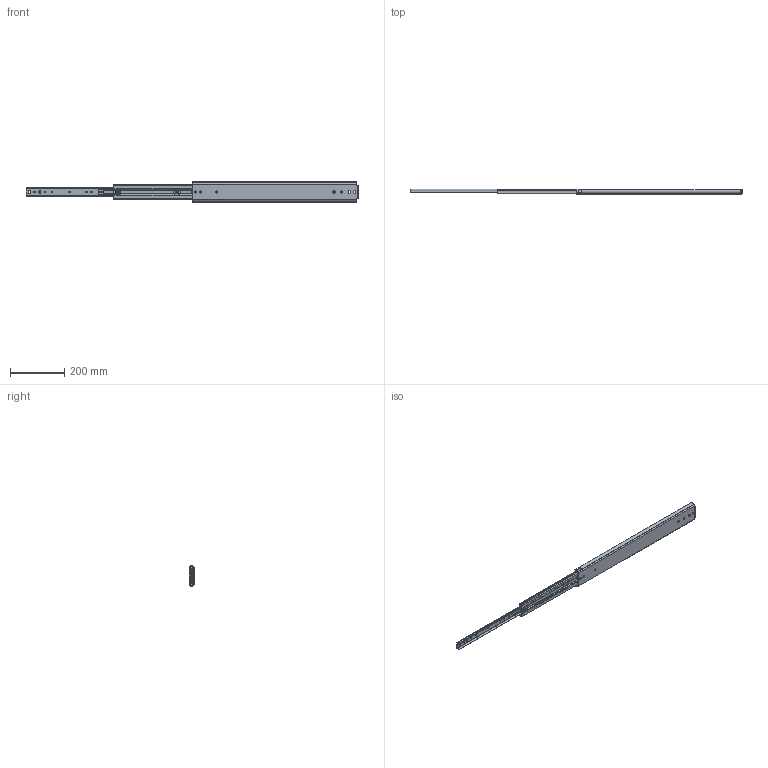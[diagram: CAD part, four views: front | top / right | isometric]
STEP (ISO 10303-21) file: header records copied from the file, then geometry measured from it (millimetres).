
FILE_DESCRIPTION((''),'2;1');
FILE_NAME('DG-76-02-24_ASM','2023-05-15T',('jishu015'),(''),'PRO/ENGINEER BY PARAMETRIC TECHNOLOGY CORPORATION, 2010280','PRO/ENGINEER BY PARAMETRIC TECHNOLOGY CORPORATION, 2010280','');
FILE_SCHEMA(('CONFIG_CONTROL_DESIGN'));
Length unit declared in the file: millimetre
Products named in the file (18): KP-76-04WAIKE3_____________; 1076-WAIKEZIDANJIAO31_; WAIK72______________ASM; 1076XIAOZHUTIAO1_____________; 163_____________; 1076XIAOZHUTIAO1______________ASM; KP-76-04ZHONGGUI3_____________; 76CHANGGUIZHONGGUIJIAO31____; 3X6WODIN3_____________; PJ-76-33_____________; 76-XIAOZHUJIA3_____________; GANGZHU-XIAO3_____________; ZHUJIA-XIAO3______________ASM; ZHONGGUI3______________ASM; KP-76-04NEIGUI3_____________; XIN-TANPIAN_____________; NEIGUI3______________ASM; DG-76-02-24_ASM
Assembly tree (48 placements, depth 4):
  DG-76-02-24_ASM
    WAIK72______________ASM
      KP-76-04WAIKE3_____________
      1076-WAIKEZIDANJIAO31_  x2
    1076XIAOZHUTIAO1______________ASM  x2
      1076XIAOZHUTIAO1_____________
      163_____________
    ZHONGGUI3______________ASM
      KP-76-04ZHONGGUI3_____________
      76CHANGGUIZHONGGUIJIAO31____
      3X6WODIN3_____________
      PJ-76-33_____________
      ZHUJIA-XIAO3______________ASM
        76-XIAOZHUJIA3_____________
        GANGZHU-XIAO3_____________  x20
    NEIGUI3______________ASM
      KP-76-04NEIGUI3_____________
      XIN-TANPIAN_____________
Bounding box: 1219.2 x 19.5 x 75.3 mm (x, y, z)
Volume: 395245 mm3; surface area: 378812 mm2
Topology: 54 solids, 54 shells, 1282 faces, 3986 edges, 2533 vertices
Faces by surface type: plane 721, cylinder 427, sphere 86, extrusion 30, cone 18
Entity records: 39203 total; most frequent: CARTESIAN_POINT 8582, ORIENTED_EDGE 6668, DIRECTION 6070, EDGE_CURVE 3334, VERTEX_POINT 2185, AXIS2_PLACEMENT_3D 2025, VECTOR 2020, LINE 1990
